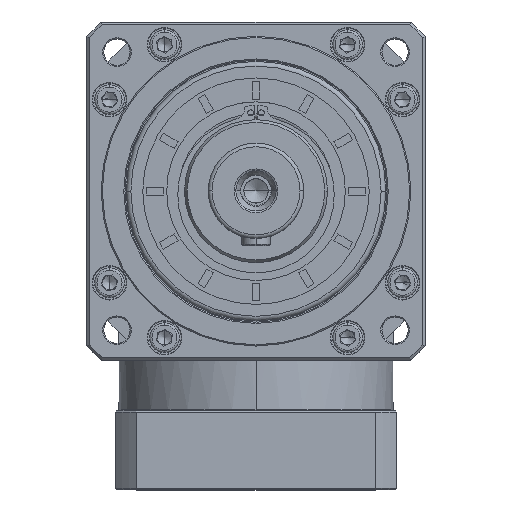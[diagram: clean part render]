
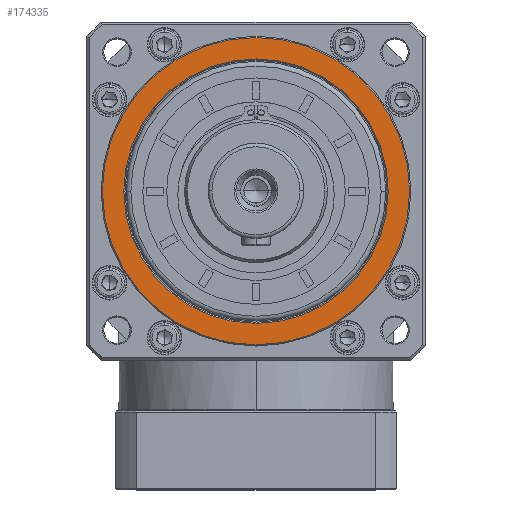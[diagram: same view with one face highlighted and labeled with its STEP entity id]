
A CAD part, top view. The second image highlights one B-rep face of the part: STEP entity #174335.
In plain terms, the highlighted planar face has unit normal (0, 0, 1).
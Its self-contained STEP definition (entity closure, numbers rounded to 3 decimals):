
#2424 = ORIENTED_EDGE ( 'NONE', *, *, #166832, .F. ) ;
#8385 = DIRECTION ( 'NONE',  ( -1., 0., 0. ) ) ;
#12392 = CARTESIAN_POINT ( 'NONE',  ( -235.158, -44.883, 234.9 ) ) ;
#12616 = AXIS2_PLACEMENT_3D ( 'NONE', #136070, #163242, #8385 ) ;
#22919 = CARTESIAN_POINT ( 'NONE',  ( -226.158, -44.883, 234.9 ) ) ;
#34170 = CARTESIAN_POINT ( 'NONE',  ( -170.658, -44.883, 234.9 ) ) ;
#40976 = DIRECTION ( 'NONE',  ( 1., 0., 0. ) ) ;
#46323 = VERTEX_POINT ( 'NONE', #107071 ) ;
#48404 = DIRECTION ( 'NONE',  ( 1., 0., 0. ) ) ;
#49015 = EDGE_CURVE ( 'NONE', #116068, #85001, #60287, .T. ) ;
#51519 = ORIENTED_EDGE ( 'NONE', *, *, #76383, .T. ) ;
#53170 = DIRECTION ( 'NONE',  ( -1., 0., 0. ) ) ;
#59317 = ORIENTED_EDGE ( 'NONE', *, *, #49015, .F. ) ;
#59981 = VERTEX_POINT ( 'NONE', #22919 ) ;
#60287 = CIRCLE ( 'NONE', #67488, 64.5 ) ;
#63756 = FACE_BOUND ( 'NONE', #139189, .T. ) ;
#66416 = CARTESIAN_POINT ( 'NONE',  ( -170.658, -44.883, 234.9 ) ) ;
#67488 = AXIS2_PLACEMENT_3D ( 'NONE', #66416, #137741, #40976 ) ;
#76383 = EDGE_CURVE ( 'NONE', #59981, #46323, #110168, .T. ) ;
#85001 = VERTEX_POINT ( 'NONE', #12392 ) ;
#92010 = PLANE ( 'NONE',  #12616 ) ;
#107071 = CARTESIAN_POINT ( 'NONE',  ( -115.158, -44.883, 234.9 ) ) ;
#107883 = CARTESIAN_POINT ( 'NONE',  ( -170.658, -44.883, 234.9 ) ) ;
#110168 = CIRCLE ( 'NONE', #171702, 55.5 ) ;
#116068 = VERTEX_POINT ( 'NONE', #142073 ) ;
#117142 = AXIS2_PLACEMENT_3D ( 'NONE', #107883, #151830, #53170 ) ;
#117368 = CIRCLE ( 'NONE', #180851, 64.5 ) ;
#118324 = DIRECTION ( 'NONE',  ( -1., 0., 0. ) ) ;
#118906 = DIRECTION ( 'NONE',  ( 0., 0., -1. ) ) ;
#121564 = DIRECTION ( 'NONE',  ( 0., 0., -1. ) ) ;
#126724 = EDGE_CURVE ( 'NONE', #46323, #59981, #127187, .T. ) ;
#127187 = CIRCLE ( 'NONE', #117142, 55.5 ) ;
#136070 = CARTESIAN_POINT ( 'NONE',  ( -170.658, -44.883, 234.9 ) ) ;
#137089 = FACE_OUTER_BOUND ( 'NONE', #146459, .T. ) ;
#137741 = DIRECTION ( 'NONE',  ( 0., 0., -1. ) ) ;
#139189 = EDGE_LOOP ( 'NONE', ( #51519, #181549 ) ) ;
#142073 = CARTESIAN_POINT ( 'NONE',  ( -106.158, -44.883, 234.9 ) ) ;
#146459 = EDGE_LOOP ( 'NONE', ( #59317, #2424 ) ) ;
#147431 = CARTESIAN_POINT ( 'NONE',  ( -170.658, -44.883, 234.9 ) ) ;
#151830 = DIRECTION ( 'NONE',  ( 0., 0., -1. ) ) ;
#163242 = DIRECTION ( 'NONE',  ( 0., 0., 1. ) ) ;
#166832 = EDGE_CURVE ( 'NONE', #85001, #116068, #117368, .T. ) ;
#171702 = AXIS2_PLACEMENT_3D ( 'NONE', #147431, #118906, #118324 ) ;
#174335 = ADVANCED_FACE ( 'NONE', ( #63756, #137089 ), #92010, .T. ) ;
#180851 = AXIS2_PLACEMENT_3D ( 'NONE', #34170, #121564, #48404 ) ;
#181549 = ORIENTED_EDGE ( 'NONE', *, *, #126724, .T. ) ;
